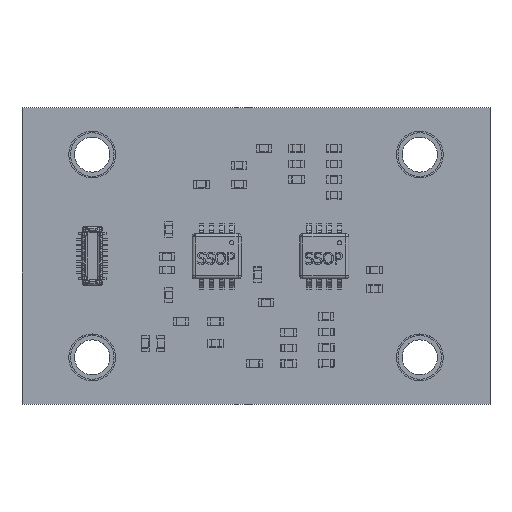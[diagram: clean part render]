
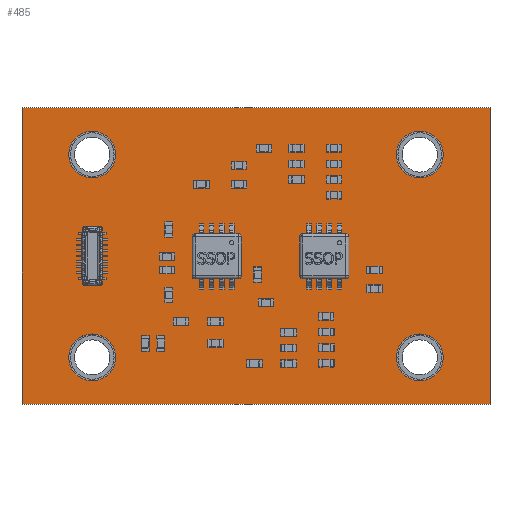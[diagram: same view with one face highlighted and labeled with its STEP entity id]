
A CAD part, top view. The second image highlights one B-rep face of the part: STEP entity #485.
In plain terms, the highlighted planar face has unit normal (0, 0, 1).
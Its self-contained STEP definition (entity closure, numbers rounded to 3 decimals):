
#212 = VERTEX_POINT('',#213);
#213 = CARTESIAN_POINT('',(-15.,-9.5,1.67));
#219 = EDGE_CURVE('',#212,#220,#222,.T.);
#220 = VERTEX_POINT('',#221);
#221 = CARTESIAN_POINT('',(15.,-9.5,1.67));
#222 = LINE('',#223,#224);
#223 = CARTESIAN_POINT('',(-15.,-9.5,1.67));
#224 = VECTOR('',#225,1.);
#225 = DIRECTION('',(1.,0.,0.));
#250 = EDGE_CURVE('',#220,#251,#253,.T.);
#251 = VERTEX_POINT('',#252);
#252 = CARTESIAN_POINT('',(15.,9.5,1.67));
#253 = LINE('',#254,#255);
#254 = CARTESIAN_POINT('',(15.,-9.5,1.67));
#255 = VECTOR('',#256,1.);
#256 = DIRECTION('',(0.,1.,0.));
#281 = EDGE_CURVE('',#251,#282,#284,.T.);
#282 = VERTEX_POINT('',#283);
#283 = CARTESIAN_POINT('',(-15.,9.5,1.67));
#284 = LINE('',#285,#286);
#285 = CARTESIAN_POINT('',(15.,9.5,1.67));
#286 = VECTOR('',#287,1.);
#287 = DIRECTION('',(-1.,0.,0.));
#312 = EDGE_CURVE('',#282,#212,#313,.T.);
#313 = LINE('',#314,#315);
#314 = CARTESIAN_POINT('',(-15.,9.5,1.67));
#315 = VECTOR('',#316,1.);
#316 = DIRECTION('',(0.,-1.,0.));
#336 = VERTEX_POINT('',#337);
#337 = CARTESIAN_POINT('',(-9.,-6.5,1.67));
#343 = EDGE_CURVE('',#336,#336,#344,.T.);
#344 = CIRCLE('',#345,1.5);
#345 = AXIS2_PLACEMENT_3D('',#346,#347,#348);
#346 = CARTESIAN_POINT('',(-10.5,-6.5,1.67));
#347 = DIRECTION('',(0.,0.,1.));
#348 = DIRECTION('',(1.,0.,0.));
#369 = VERTEX_POINT('',#370);
#370 = CARTESIAN_POINT('',(-9.,6.5,1.67));
#376 = EDGE_CURVE('',#369,#369,#377,.T.);
#377 = CIRCLE('',#378,1.5);
#378 = AXIS2_PLACEMENT_3D('',#379,#380,#381);
#379 = CARTESIAN_POINT('',(-10.5,6.5,1.67));
#380 = DIRECTION('',(0.,0.,1.));
#381 = DIRECTION('',(1.,0.,0.));
#402 = VERTEX_POINT('',#403);
#403 = CARTESIAN_POINT('',(12.,-6.5,1.67));
#409 = EDGE_CURVE('',#402,#402,#410,.T.);
#410 = CIRCLE('',#411,1.5);
#411 = AXIS2_PLACEMENT_3D('',#412,#413,#414);
#412 = CARTESIAN_POINT('',(10.5,-6.5,1.67));
#413 = DIRECTION('',(0.,0.,1.));
#414 = DIRECTION('',(1.,0.,0.));
#435 = VERTEX_POINT('',#436);
#436 = CARTESIAN_POINT('',(12.,6.5,1.67));
#442 = EDGE_CURVE('',#435,#435,#443,.T.);
#443 = CIRCLE('',#444,1.5);
#444 = AXIS2_PLACEMENT_3D('',#445,#446,#447);
#445 = CARTESIAN_POINT('',(10.5,6.5,1.67));
#446 = DIRECTION('',(0.,0.,1.));
#447 = DIRECTION('',(1.,0.,0.));
#485 = ADVANCED_FACE('',(#486,#492,#495,#498,#501),#504,.F.);
#486 = FACE_BOUND('',#487,.T.);
#487 = EDGE_LOOP('',(#488,#489,#490,#491));
#488 = ORIENTED_EDGE('',*,*,#219,.T.);
#489 = ORIENTED_EDGE('',*,*,#250,.T.);
#490 = ORIENTED_EDGE('',*,*,#281,.T.);
#491 = ORIENTED_EDGE('',*,*,#312,.T.);
#492 = FACE_BOUND('',#493,.F.);
#493 = EDGE_LOOP('',(#494));
#494 = ORIENTED_EDGE('',*,*,#343,.T.);
#495 = FACE_BOUND('',#496,.F.);
#496 = EDGE_LOOP('',(#497));
#497 = ORIENTED_EDGE('',*,*,#376,.T.);
#498 = FACE_BOUND('',#499,.F.);
#499 = EDGE_LOOP('',(#500));
#500 = ORIENTED_EDGE('',*,*,#409,.T.);
#501 = FACE_BOUND('',#502,.F.);
#502 = EDGE_LOOP('',(#503));
#503 = ORIENTED_EDGE('',*,*,#442,.T.);
#504 = PLANE('',#505);
#505 = AXIS2_PLACEMENT_3D('',#506,#507,#508);
#506 = CARTESIAN_POINT('',(-15.,-9.5,1.67));
#507 = DIRECTION('',(0.,0.,-1.));
#508 = DIRECTION('',(-1.,0.,0.));
